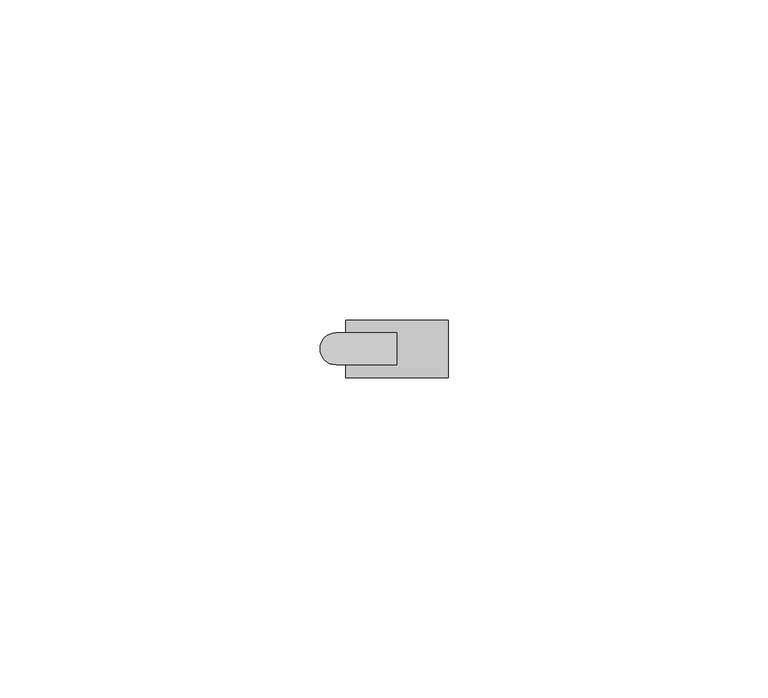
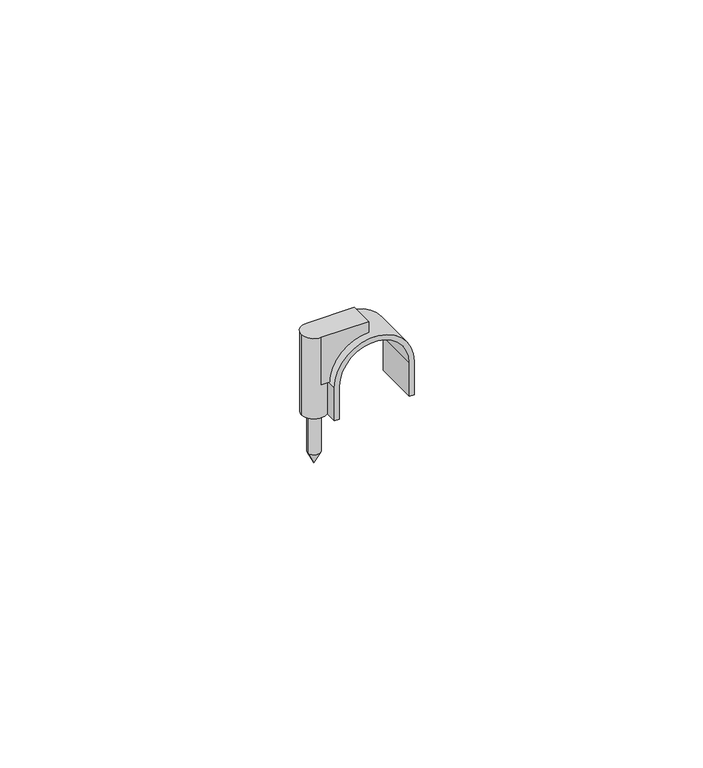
"""IFC4 building model written with IfcOpenShell, lengths in millimetres: cable carrier fitting geometry, КНС_СкобаПластиковаяСГвоздем_DKC : д.13 - 14мм."""

from ifc_helpers import new_model, si_unit, point, frame, frame_2d, origin, place, context, project, spatial, polyline, circle_curve, trimmed, segment, composite_curve, outline, extrude, source, transform, mapped, element, save
from ifc_brep_helpers import plane_surface, cylinder_surface, revolved_surface, advanced_brep


def cable_carrier_fitting_b7b49f06(model_context):
    return source(origin(), model_context, "Body", "SolidModel", [
        advanced_brep(
        [(-8.25, 0.0, 0.0), (-10.75, 0.0, 0.0), (-9.5, 0.0, 0.0), (-8.25, 0.0, -8.5), (-10.75, 0.0, -8.5), (-9.5, 0.0, -11.0)],
        [
            (0, 1, circle_curve(frame((-9.5, 0.0, 0.0), z_axis=(0.0, 0.0, 1.0), x_axis=(-1.0, 0.0, 0.0)), 1.25)),
            (1, 2),
            (2, 0),
            (1, 0, circle_curve(frame((-9.5, 0.0, 0.0), z_axis=(0.0, 0.0, 1.0), x_axis=(-1.0, 0.0, 0.0)), 1.25)),
            (3, 4, circle_curve(frame((-9.5, 0.0, -8.5), z_axis=(0.0, 0.0, 1.0), x_axis=(-1.0, 0.0, 0.0)), 1.25)),
            (4, 1),
            (0, 3),
            (4, 3, circle_curve(frame((-9.5, 0.0, -8.5), z_axis=(0.0, 0.0, 1.0), x_axis=(-1.0, 0.0, 0.0)), 1.25)),
            (5, 4),
            (3, 5),
        ],
        [
            plane_surface(frame((-9.5, 0.0, 0.0), z_axis=(0.0, 0.0, 1.0), x_axis=(-1.0, 0.0, 0.0))),
            cylinder_surface(frame((-9.5, 0.0, 28.2919306), z_axis=(0.0, 0.0, -1.0), x_axis=(-1.0, 0.0, 0.0)), 1.25),
            revolved_surface(polyline([(-10.75, 0.0, -8.5), (-9.5, 0.0, -11.0)]), (-9.5, 0.0, 28.2919306), (0.0, 0.0, -1.0)),
        ],
        [
            (0, [[1, 2, 3]]),
            (0, [[4, -3, -2]]),
            (1, [[5, 6, -1, 7]]),
            (1, [[8, -7, -4, -6]]),
            (2, [[9, -5, 10]]),
            (2, [[-10, -8, -9]]),
        ],
    ),
        advanced_brep(
        [(-7.0, -2.5, 7.0), (0.0, -2.5, 14.0), (0.0, -2.5, 17.0), (-9.5, -2.5, 17.0), (-9.5, -2.5, 7.0), (-7.0, 2.5, 7.0), (-9.5, 2.5, 7.0), (-9.5, 2.5, 17.0), (0.0, 2.5, 17.0), (0.0, 2.5, 14.0), (-7.0, 0.0, 7.0), (-12.0, 0.0, 17.0), (-7.0, 0.0, 0.0), (-12.0, 0.0, 0.0), (-9.5, 0.0, 0.0)],
        [
            (0, 1, circle_curve(frame((0.0, -2.5, 7.0), z_axis=(0.0, 1.0, 0.0), x_axis=(1.0, 0.0, 0.0)), 7.0)),
            (1, 2),
            (2, 3),
            (3, 4),
            (4, 0),
            (5, 6),
            (6, 7),
            (7, 8),
            (8, 9),
            (9, 5, circle_curve(frame((0.0, 2.5, 7.0), z_axis=(0.0, -1.0, 0.0), x_axis=(1.0, 0.0, 0.0)), 7.0)),
            (0, 10),
            (10, 5),
            (9, 1),
            (8, 2),
            (7, 11, circle_curve(frame((-9.5, 0.0, 17.0), z_axis=(0.0, 0.0, 1.0), x_axis=(-1.0, 0.0, 0.0)), 2.5)),
            (11, 3, circle_curve(frame((-9.5, 0.0, 17.0), z_axis=(0.0, 0.0, 1.0), x_axis=(-1.0, 0.0, 0.0)), 2.5)),
            (4, 10, circle_curve(frame((-9.5, 0.0, 7.0), z_axis=(0.0, 0.0, 1.0), x_axis=(-1.0, 0.0, 0.0)), 2.5)),
            (10, 6, circle_curve(frame((-9.5, 0.0, 7.0), z_axis=(0.0, 0.0, 1.0), x_axis=(-1.0, 0.0, 0.0)), 2.5)),
            (12, 13, circle_curve(frame((-9.5, 0.0, 0.0), z_axis=(0.0, 0.0, 1.0), x_axis=(-1.0, 0.0, 0.0)), 2.5)),
            (13, 11),
            (10, 12),
            (13, 12, circle_curve(frame((-9.5, 0.0, 0.0), z_axis=(0.0, 0.0, 1.0), x_axis=(-1.0, 0.0, 0.0)), 2.5)),
            (12, 14),
            (14, 13),
        ],
        [
            plane_surface(frame((7.0, -2.5, 7.0), z_axis=(0.0, -1.0, 0.0), x_axis=(0.0, 0.0, -1.0))),
            plane_surface(frame((7.0, 2.5, 7.0), z_axis=(0.0, 1.0, 0.0), x_axis=(0.0, 0.0, 1.0))),
            revolved_surface(polyline([(7.0, 2.5, 7.0), (7.0, -2.5, 7.0)]), (0.0, 2.5, 7.0), (0.0, 1.0, 0.0)),
            plane_surface(frame((0.0, -2.5, 14.0), z_axis=(1.0, 0.0, 0.0), x_axis=(0.0, 1.0, 0.0))),
            plane_surface(frame((0.0, -2.5, 17.0), z_axis=(0.0, 0.0, 1.0), x_axis=(0.0, 1.0, 0.0))),
            plane_surface(frame((-9.5, -2.5, 7.0), z_axis=(0.0, 0.0, -1.0), x_axis=(0.0, 1.0, 0.0))),
            cylinder_surface(frame((-9.5, 0.0, 28.2919306), z_axis=(0.0, 0.0, -1.0), x_axis=(-1.0, 0.0, 0.0)), 2.5),
            plane_surface(frame((-9.5, 0.0, 0.0), z_axis=(0.0, 0.0, -1.0), x_axis=(-1.0, 0.0, 0.0))),
        ],
        [
            (0, [[1, 2, 3, 4, 5]]),
            (1, [[6, 7, 8, 9, 10]]),
            (2, [[-1, 11, 12, -10, 13]]),
            (3, [[-2, -13, -9, 14]]),
            (4, [[-3, -14, -8, 15, 16]]),
            (5, [[-5, 17, -11]]),
            (5, [[-6, -12, 18]]),
            (6, [[19, 20, -15, -7, -18, 21]]),
            (6, [[-20, 22, -21, -17, -4, -16]]),
            (7, [[-19, 23, 24]]),
            (7, [[-22, -24, -23]]),
        ],
    ),
        extrude(outline(composite_curve([segment(polyline([(7.0, 7.0), (0.0, 7.0), (0.0, 8.0), (7.0, 8.0)]), True, "CONTINUOUS"), segment(trimmed(circle_curve(frame_2d((7.0, 0.0)), 8.0), [point((7.0, 8.0))], [point((7.0, -8.0))], False, "CARTESIAN"), True, "CONTINUOUS"), segment(polyline([(7.0, -8.0), (0.0, -8.0), (0.0, -7.0), (7.0, -7.0)]), True, "CONTINUOUS"), segment(trimmed(circle_curve(frame_2d((7.0, 0.0)), 7.0), [point((7.0, -7.0))], [point((7.0, 7.0))], True, "CARTESIAN"), True, "CONTINUOUS")], self_intersect=False)), frame((0.0, -4.5, 0.0), z_axis=(0.0, 1.0, 0.0), x_axis=(0.0, 0.0, 1.0)), (0.0, 0.0, 1.0), 9.0),
    ])


if __name__ == "__main__":
    model = new_model("IFC4")
    model_context = context("Model", 3, world=origin())
    ifc_project = project(units=[si_unit("LENGTHUNIT", "METRE", prefix="MILLI")], contexts=[model_context])
    site = spatial("IfcSite", under=ifc_project)
    building = spatial("IfcBuilding", under=site)
    placement = place(None, origin())
    cable_carrier_fitting_shape = cable_carrier_fitting_b7b49f06(model_context)
    element("IfcCableCarrierFitting", 1, ObjectType="КНС_СкобаПластиковаяСГвоздем_DKC : д.13 - 14мм", at=placement, inside=building, context=model_context, shape_type="MappedRepresentation", body=[
        mapped(cable_carrier_fitting_shape, transform((0.0, 0.0, 0.0), x_axis=(1.0, 0.0, 0.0), y_axis=(0.0, 1.0, 0.0), z_axis=(0.0, 0.0, 1.0))),
    ])
    save(model, "model.ifc")
